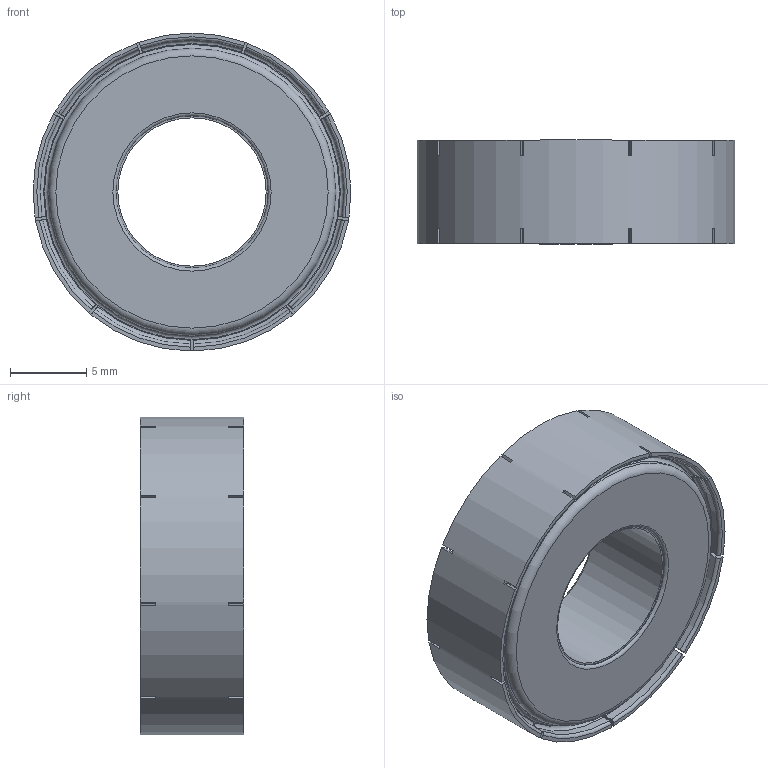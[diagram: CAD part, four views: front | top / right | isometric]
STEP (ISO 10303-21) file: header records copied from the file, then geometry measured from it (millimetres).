
FILE_DESCRIPTION(/* description */ ('STEP AP242 Edition 2','CAx-IF Rec.Pracs.---Representation and Presentation of Product Manufacturing Information (PMI)---4.0---2014-10-13','CAx-IF Rec.Pracs.---3D Tessellated Geometry---0.4---2014-09-14','2;1','CAx-IF Rec.Pracs.---User Defined Attributes---1.5---2016-08-15'),/* implementation_level */ '2;1');
FILE_NAME(/* name */ 'Assembly V2 - Cage (5)',/* time_stamp */ '2026-02-05T22:44:37Z',/* author */ (''),/* organization */ (''),/* preprocessor_version */ 'ST-DEVELOPER v20',/* originating_system */ 'ONSHAPE BY PTC INC, 1.210',/* authorisation */ ' ');
FILE_SCHEMA (('AP242_MANAGED_MODEL_BASED_3D_ENGINEERING_MIM_LF { 1 0 10303 442 3 1 4 }'));
Length unit declared in the file: metre
Products named in the file (1): Cage
Bounding box: 20.9 x 6.8 x 20.9 mm (x, y, z)
Volume: 1749.6 mm3; surface area: 1378.8 mm2
Topology: 1 solids, 1 shells, 231 faces, 642 edges, 426 vertices
Faces by surface type: plane 90, bspline 71, torus 42, cylinder 28
Full cylindrical faces by diameter (mm): 9.75 x1, 10 x2, 18.9 x2, 20.9 x1
Entity records: 8042 total; most frequent: CARTESIAN_POINT 2631, ORIENTED_EDGE 1256, DIRECTION 864, EDGE_CURVE 628, VERTEX_POINT 424, AXIS2_PLACEMENT_3D 293, LINE 278, VECTOR 278
